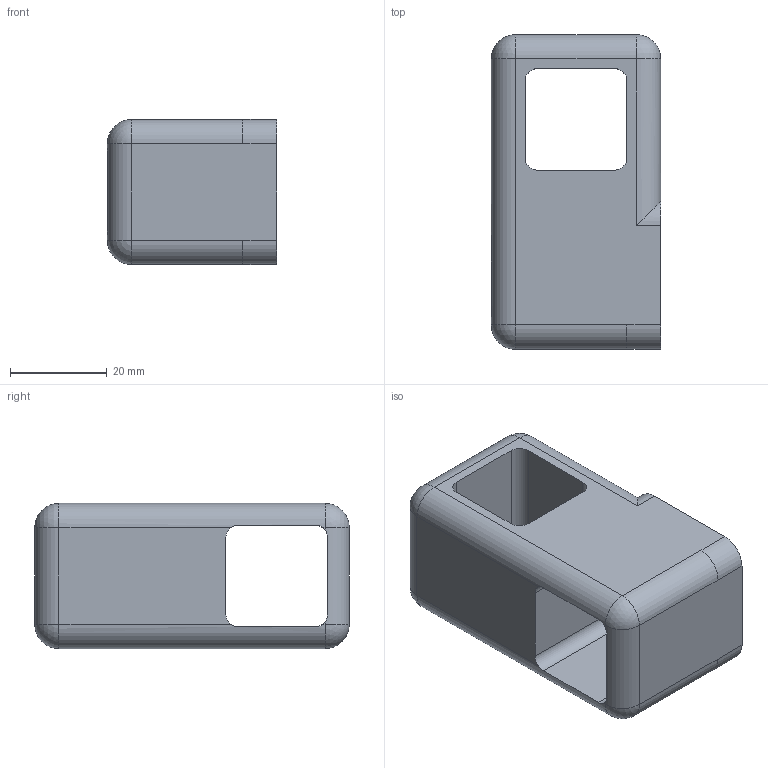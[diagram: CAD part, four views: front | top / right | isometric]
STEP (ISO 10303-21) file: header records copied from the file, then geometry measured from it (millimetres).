
FILE_DESCRIPTION (( 'STEP AP203' ), '1' );
FILE_NAME ('baglanti_parcasi_1.STEP', '2020-03-04T09:24:03', ( '' ), ( '' ), 'SwSTEP 2.0', 'SolidWorks 2018', '' );
FILE_SCHEMA (( 'CONFIG_CONTROL_DESIGN' ));
Length unit declared in the file: millimetre
Products named in the file (1): baglanti_parcasi_1
Bounding box: 35 x 65 x 30 mm (x, y, z)
Volume: 37733.9 mm3; surface area: 13031.1 mm2
Topology: 1 solids, 1 shells, 57 faces, 154 edges, 92 vertices
Faces by surface type: cylinder 29, plane 20, sphere 8
Entity records: 1853 total; most frequent: CARTESIAN_POINT 364, DIRECTION 300, ORIENTED_EDGE 296, EDGE_CURVE 148, AXIS2_PLACEMENT_3D 108, VERTEX_POINT 92, VECTOR 84, LINE 84
